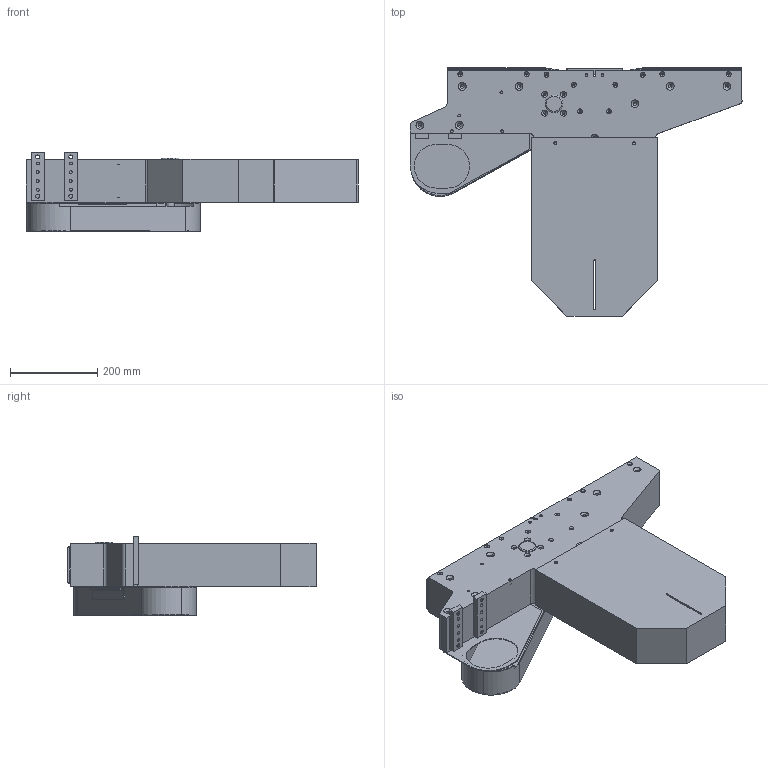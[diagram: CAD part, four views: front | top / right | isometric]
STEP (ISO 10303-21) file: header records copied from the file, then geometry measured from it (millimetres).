
FILE_DESCRIPTION (( 'STEP AP214' ), '1' );
FILE_NAME ('FMCD SD 0L.step', '2017-04-07T11:08:13', ( '' ), ( '' ), 'SwSTEP 2.0', 'SolidWorks 2016', '' );
FILE_SCHEMA (( 'AUTOMOTIVE_DESIGN' ));
Length unit declared in the file: millimetre
Products named in the file (1): FMCD SD 0L
Bounding box: 760.1 x 568.2 x 180.5 mm (x, y, z)
Volume: 21086521.8 mm3; surface area: 1075322.3 mm2
Topology: 2 solids, 2 shells, 553 faces, 1330 edges, 779 vertices
Faces by surface type: cylinder 221, cone 172, plane 142, bspline 14, torus 4
Entity records: 17576 total; most frequent: CARTESIAN_POINT 3485, DIRECTION 2820, ORIENTED_EDGE 2492, EDGE_CURVE 1246, AXIS2_PLACEMENT_3D 1078, VERTEX_POINT 779, VECTOR 664, LINE 664
